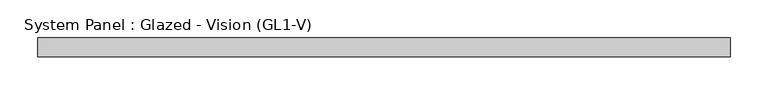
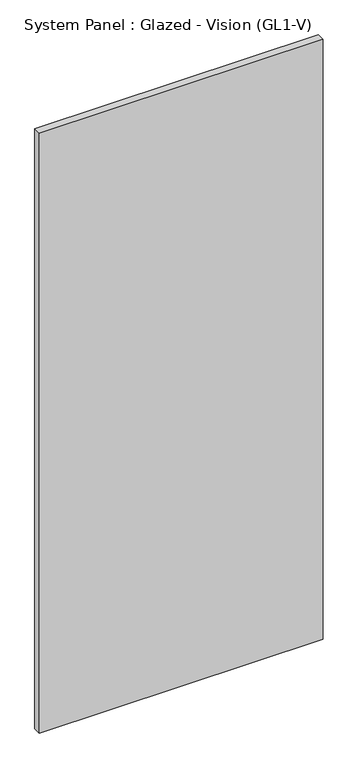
"""IFC4 building model written with IfcOpenShell, lengths in millimetres: plate geometry, System Panel : Glazed - Vision (GL1-V)."""

from ifc_helpers import new_model, si_unit, origin, origin_with_axes, place, context, project, spatial, polyline, outline, extrude, source, transform, mapped, element, save


def system_panel_glazed_vision_gl1_v_6016de22(model_context):
    return source(origin(), model_context, "Body", "SweptSolid", [
        extrude(outline(polyline([(460.375, -25.4), (-460.375, -25.4), (-460.375, 0.0), (460.375, 0.0), (460.375, -25.4)])), origin_with_axes(), (0.0, 0.0, 1.0), 2057.4),
    ])


if __name__ == "__main__":
    model = new_model("IFC4")
    model_context = context("Model", 3, world=origin())
    ifc_project = project(units=[si_unit("LENGTHUNIT", "METRE", prefix="MILLI")], contexts=[model_context])
    site = spatial("IfcSite", under=ifc_project)
    building = spatial("IfcBuilding", under=site)
    placement = place(None, origin())
    system_panel_glazed_vision_gl1_v_shape = system_panel_glazed_vision_gl1_v_6016de22(model_context)
    element("IfcPlate", 1, ObjectType="System Panel : Glazed - Vision (GL1-V)", at=placement, inside=building, context=model_context, shape_type="MappedRepresentation", body=[
        mapped(system_panel_glazed_vision_gl1_v_shape, transform((0.0, 0.0, 0.0), x_axis=(1.0, 0.0, 0.0), y_axis=(0.0, 1.0, 0.0), z_axis=(0.0, 0.0, 1.0))),
    ])
    save(model, "model.ifc")
